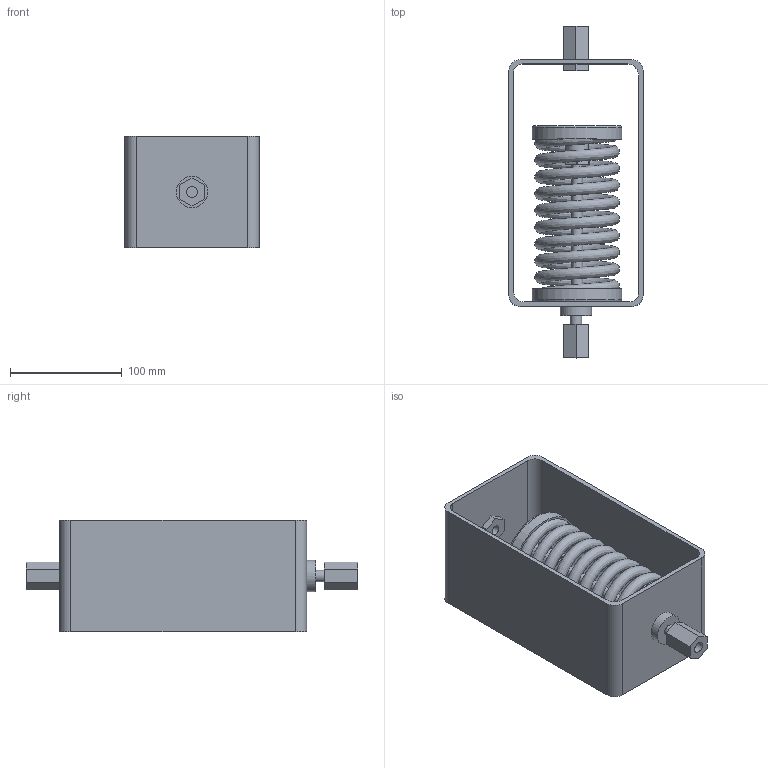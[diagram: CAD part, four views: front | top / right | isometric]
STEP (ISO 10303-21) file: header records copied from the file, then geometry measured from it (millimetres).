
FILE_DESCRIPTION(/* description */ (''),/* implementation_level */ '2;1');
FILE_NAME(/* name */ 'Z:\Output\SDZ_6-01927-000.stp',/* time_stamp */ '2017-09-21T16:27:36+02:00',/* author */ ('engineering1'),/* organization */ (''),/* preprocessor_version */ 'ST-DEVELOPER v16.5',/* originating_system */ 'Autodesk Inventor 2017',/* authorisation */ '');
FILE_SCHEMA (('AUTOMOTIVE_DESIGN { 1 0 10303 214 3 1 1 }'));
Length unit declared in the file: millimetre
Products named in the file (1): SDZ-2
Bounding box: 120 x 297 x 100 mm (x, y, z)
Volume: 497176 mm3; surface area: 232773.7 mm2
Topology: 3 solids, 3 shells, 101 faces, 218 edges, 134 vertices
Faces by surface type: plane 49, cylinder 36, sphere 12, torus 3, bspline 1
Full cylindrical faces by diameter (mm): 8.5 x1, 10 x3, 20 x1, 28 x1, 76 x2, 80 x2
Entity records: 4896 total; most frequent: CARTESIAN_POINT 2661, DIRECTION 482, ORIENTED_EDGE 414, EDGE_CURVE 204, AXIS2_PLACEMENT_3D 180, EDGE_LOOP 131, VERTEX_POINT 131, LINE 122
